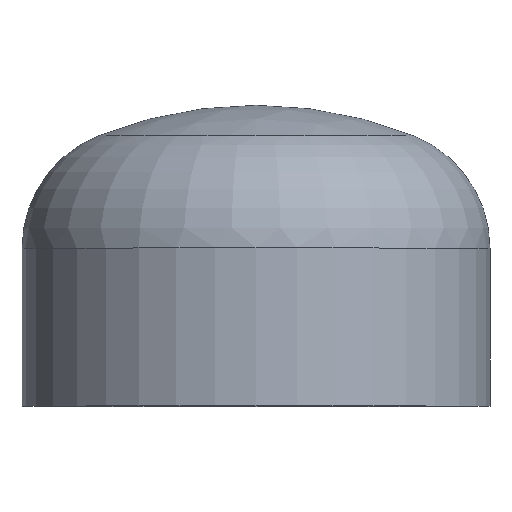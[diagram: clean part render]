
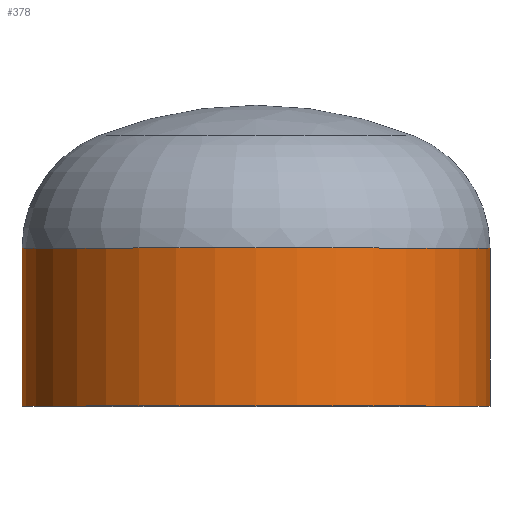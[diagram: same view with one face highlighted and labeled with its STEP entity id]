
A CAD part, top view. The second image highlights one B-rep face of the part: STEP entity #378.
In plain terms, the highlighted cylindrical face has radius 177.8 mm (diameter 355.6 mm), a partial arc.
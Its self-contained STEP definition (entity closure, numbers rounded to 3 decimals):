
#9 = VERTEX_POINT ( 'NONE', #281 ) ;
#13 = AXIS2_PLACEMENT_3D ( 'NONE', #375, #370, #214 ) ;
#27 = ORIENTED_EDGE ( 'NONE', *, *, #101, .F. ) ;
#40 = AXIS2_PLACEMENT_3D ( 'NONE', #259, #109, #388 ) ;
#51 = VERTEX_POINT ( 'NONE', #247 ) ;
#79 = ORIENTED_EDGE ( 'NONE', *, *, #329, .F. ) ;
#92 = AXIS2_PLACEMENT_3D ( 'NONE', #338, #335, #331 ) ;
#96 = EDGE_CURVE ( 'NONE', #132, #120, #129, .T. ) ;
#101 = EDGE_CURVE ( 'NONE', #132, #51, #148, .T. ) ;
#102 = ORIENTED_EDGE ( 'NONE', *, *, #136, .T. ) ;
#109 = DIRECTION ( 'NONE',  ( 0., -1., 0. ) ) ;
#116 = EDGE_LOOP ( 'NONE', ( #357, #102, #79, #27 ) ) ;
#120 = VERTEX_POINT ( 'NONE', #312 ) ;
#129 = CIRCLE ( 'NONE', #92, 177.8 ) ;
#132 = VERTEX_POINT ( 'NONE', #201 ) ;
#136 = EDGE_CURVE ( 'NONE', #120, #9, #391, .T. ) ;
#143 = FACE_OUTER_BOUND ( 'NONE', #116, .T. ) ;
#148 = LINE ( 'NONE', #234, #258 ) ;
#158 = CIRCLE ( 'NONE', #40, 177.8 ) ;
#192 = CYLINDRICAL_SURFACE ( 'NONE', #13, 177.8 ) ;
#201 = CARTESIAN_POINT ( 'NONE',  ( 177.8, 120., 0. ) ) ;
#214 = DIRECTION ( 'NONE',  ( 1., 0., 0. ) ) ;
#232 = DIRECTION ( 'NONE',  ( 0., -1., 0. ) ) ;
#234 = CARTESIAN_POINT ( 'NONE',  ( 177.8, 0., 0. ) ) ;
#247 = CARTESIAN_POINT ( 'NONE',  ( 177.8, 0., 0. ) ) ;
#252 = DIRECTION ( 'NONE',  ( 0., -1., 0. ) ) ;
#258 = VECTOR ( 'NONE', #232, 1000. ) ;
#259 = CARTESIAN_POINT ( 'NONE',  ( 0., 0., 0. ) ) ;
#281 = CARTESIAN_POINT ( 'NONE',  ( -177.8, 0., 0. ) ) ;
#312 = CARTESIAN_POINT ( 'NONE',  ( -177.8, 120., 0. ) ) ;
#327 = VECTOR ( 'NONE', #252, 1000. ) ;
#329 = EDGE_CURVE ( 'NONE', #51, #9, #158, .T. ) ;
#331 = DIRECTION ( 'NONE',  ( 1., 0., 0. ) ) ;
#335 = DIRECTION ( 'NONE',  ( 0., -1., 0. ) ) ;
#338 = CARTESIAN_POINT ( 'NONE',  ( 0., 120., 0. ) ) ;
#353 = CARTESIAN_POINT ( 'NONE',  ( -177.8, 0., 0. ) ) ;
#357 = ORIENTED_EDGE ( 'NONE', *, *, #96, .T. ) ;
#370 = DIRECTION ( 'NONE',  ( 0., -1., 0. ) ) ;
#375 = CARTESIAN_POINT ( 'NONE',  ( 0., 0., 0. ) ) ;
#378 = ADVANCED_FACE ( 'NONE', ( #143 ), #192, .T. ) ;
#388 = DIRECTION ( 'NONE',  ( 1., 0., 0. ) ) ;
#391 = LINE ( 'NONE', #353, #327 ) ;
